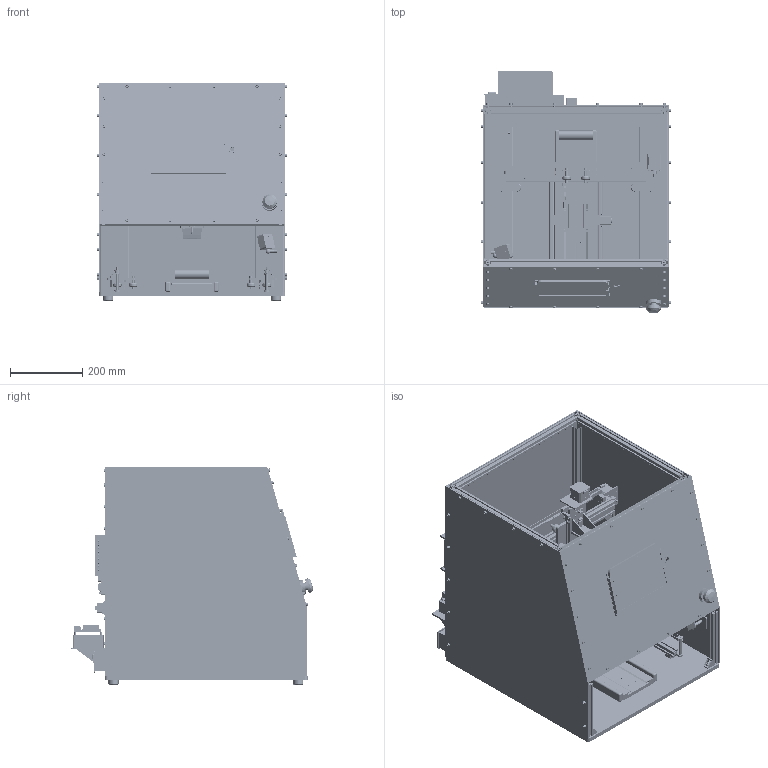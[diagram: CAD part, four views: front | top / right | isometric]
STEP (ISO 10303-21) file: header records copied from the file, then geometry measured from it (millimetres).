
FILE_DESCRIPTION(('Open CASCADE Model'),'2;1');
FILE_NAME('Open CASCADE Shape Model','2026-11-26T01:08:18',('Author'),( 'Open CASCADE'),'Open CASCADE STEP processor 7.9','Open CASCADE 7.9' ,'Unknown');
FILE_SCHEMA(('AUTOMOTIVE_DESIGN { 1 0 10303 214 1 1 1 1 }'));
Length unit declared in the file: millimetre
Products named in the file (375): UltraVena_rig_butterfly; electronics_bay; psu_24V_350W; psu_24V_350W__case; psu_24V_350W__internals; psu_24V_350W__terminal_block; psu_24V_350W__terminal_screws; fuse_block; fuse_block__base; fuse_block__blade_fuses; fuse_block__studs; converter_12V_D36V50F12; converter_12V_D36V50F12__board; converter_12V_D36V50F12__inductor; converter_12V_D36V50F12__capacitors; converter_12V_D36V50F12__regulator_ic; converter_12V_standoff; converter_12V_standoff_2; converter_12V_standoff_3; converter_12V_standoff_4; converter_12V_servo_D24V150F12; converter_12V_servo_D24V150F12__board; converter_12V_servo_D24V150F12__inductor; converter_12V_servo_D24V150F12__screw_terminals; converter_12V_servo_D24V150F12__capacitors; converter_12V_servo_standoff; converter_12V_servo_standoff_2; converter_12V_servo_standoff_3; converter_12V_servo_standoff_4; motion_power_relay; motion_power_relay__body; motion_power_relay__terminals; converter_5V_D36V50F5; converter_5V_standoff; converter_5V_standoff_2; converter_5V_standoff_3; converter_5V_standoff_4; usb_hub_powered; usb_hub_powered__case; usb_hub_powered__ports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
Assembly tree (560 placements, depth 10):
  UltraVena_rig_butterfly
    electronics_bay
      psu_24V_350W
        psu_24V_350W__case
        psu_24V_350W__internals
        psu_24V_350W__terminal_block
        psu_24V_350W__terminal_screws
      fuse_block
        fuse_block__base
        fuse_block__blade_fuses
        fuse_block__studs
      converter_12V_D36V50F12
        converter_12V_D36V50F12__board
        converter_12V_D36V50F12__inductor
        converter_12V_D36V50F12__capacitors
        converter_12V_D36V50F12__regulator_ic
      converter_12V_standoff
      converter_12V_standoff_2
      converter_12V_standoff_3
      converter_12V_standoff_4
      converter_12V_servo_D24V150F12
        converter_12V_servo_D24V150F12__board
        converter_12V_servo_D24V150F12__inductor
        converter_12V_servo_D24V150F12__screw_terminals
        converter_12V_servo_D24V150F12__capacitors
      converter_12V_servo_standoff
      converter_12V_servo_standoff_2
      converter_12V_servo_standoff_3
      converter_12V_servo_standoff_4
      motion_power_relay
        motion_power_relay__body
        motion_power_relay__terminals
      converter_5V_D36V50F5
        converter_12V_D36V50F12__board
        converter_12V_D36V50F12__inductor
        converter_12V_D36V50F12__capacitors
        converter_12V_D36V50F12__regulator_ic
      converter_5V_standoff
      converter_5V_standoff_2
      converter_5V_standoff_3
      converter_5V_standoff_4
      usb_hub_powered
        usb_hub_powered__case
        usb_hub_powered__ports
        usb_hub_powered__dc_jack
      teensy_4_0
        teensy_4_0__board
        teensy_4_0__mcu
        teensy_4_0__usb_micro
        teensy_4_0__pin_headers
      teensy_carrier
      servo_bus_adapter
        servo_bus_adapter__board
        servo_bus_adapter__usb_c
        servo_bus_adapter__power_terminal
        servo_bus_adapter__servo_sockets
        servo_bus_adapter__uart_chip
      servo_bus_adapter_standoff
      servo_bus_adapter_standoff_2
      servo_bus_adapter_standoff_3
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Bounding box: 526 x 670.93 x 604 mm (x, y, z)
Volume: 12419183.6 mm3; surface area: 5462583.7 mm2
Topology: 526 solids, 526 shells, 5842 faces, 12856 edges, 8373 vertices
Faces by surface type: plane 4315, cylinder 1451, sphere 34, cone 31, bspline 11
Full cylindrical faces by diameter (mm): 2.2 x68, 2.4 x16, 2.5 x16, 2.6 x32, 2.8 x16, 3 x82, 3.2 x14, 3.4 x60, 3.5 x10, 4 x6, 4.2 x40, 4.4 x16, 4.8 x10, 5 x104, 5.1 x42, 5.2 x120, 5.4 x110, 6 x44, 6.2 x10, 6.4 x2, 6.8 x2, 7 x2, 7.2 x1, 7.8 x2, 8 x48, 8.5 x90, 10 x38, 10.2 x2, 10.4 x1, 11 x7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
Entity records: 246658 total; most frequent: CARTESIAN_POINT 55959, DIRECTION 35370, LINE 22158, VECTOR 22158, ORIENTED_EDGE 17296, PCURVE 17296, DEFINITIONAL_REPRESENTATION 17296, EDGE_CURVE 8648
